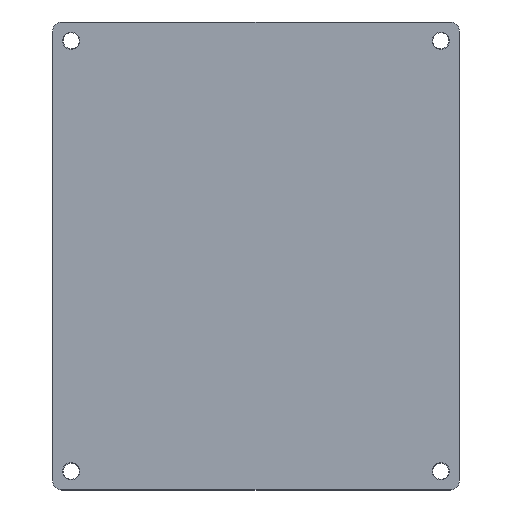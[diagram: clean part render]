
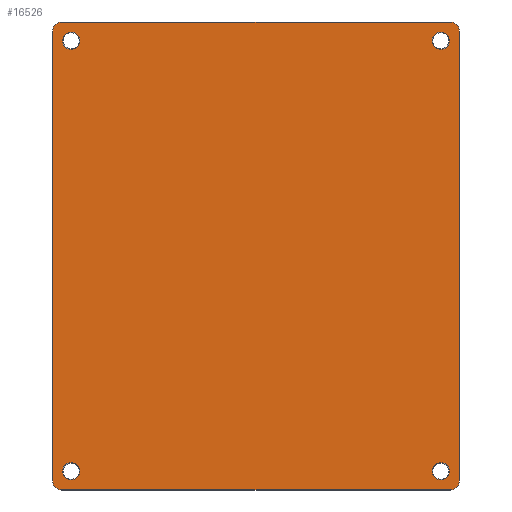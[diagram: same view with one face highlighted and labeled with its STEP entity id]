
A CAD part, top view. The second image highlights one B-rep face of the part: STEP entity #16526.
In plain terms, the highlighted planar face has unit normal (0, 0, 1).
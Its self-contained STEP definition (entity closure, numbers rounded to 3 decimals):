
#11145=CARTESIAN_POINT('',(82.5,89.75,11.198));
#11146=DIRECTION('',(0.,0.,1.));
#11147=DIRECTION('',(1.,0.,0.));
#11148=AXIS2_PLACEMENT_3D('',#11145,#11146,#11147);
#11153=DIRECTION('',(0.,1.,0.));
#11154=VECTOR('',#11153,96.);
#11155=CARTESIAN_POINT('',(84.5,-6.25,11.198));
#11156=LINE('',#11155,#11154);
#11160=CARTESIAN_POINT('',(82.5,-6.25,11.198));
#11161=DIRECTION('',(0.,0.,1.));
#11162=DIRECTION('',(0.,-1.,0.));
#11163=AXIS2_PLACEMENT_3D('',#11160,#11161,#11162);
#11168=DIRECTION('',(1.,0.,0.));
#11169=VECTOR('',#11168,83.);
#11170=CARTESIAN_POINT('',(-0.5,-8.25,11.198));
#11171=LINE('',#11170,#11169);
#11175=CARTESIAN_POINT('',(-0.5,-6.25,11.198));
#11176=DIRECTION('',(0.,0.,1.));
#11177=DIRECTION('',(-1.,0.,0.));
#11178=AXIS2_PLACEMENT_3D('',#11175,#11176,#11177);
#11183=DIRECTION('',(0.,-1.,0.));
#11184=VECTOR('',#11183,96.);
#11185=CARTESIAN_POINT('',(-2.5,89.75,11.198));
#11186=LINE('',#11185,#11184);
#11190=CARTESIAN_POINT('',(-0.5,89.75,11.198));
#11191=DIRECTION('',(0.,0.,1.));
#11192=DIRECTION('',(0.,1.,0.));
#11193=AXIS2_PLACEMENT_3D('',#11190,#11191,#11192);
#11198=DIRECTION('',(-1.,0.,0.));
#11199=VECTOR('',#11198,83.);
#11200=CARTESIAN_POINT('',(82.5,91.75,11.198));
#11201=LINE('',#11200,#11199);
#11205=CARTESIAN_POINT('',(1.5,87.75,11.198));
#11206=DIRECTION('',(0.,0.,1.));
#11207=DIRECTION('',(1.,0.,0.));
#11208=AXIS2_PLACEMENT_3D('',#11205,#11206,#11207);
#11213=CARTESIAN_POINT('',(1.5,87.75,11.198));
#11214=DIRECTION('',(0.,0.,1.));
#11215=DIRECTION('',(-1.,0.,0.));
#11216=AXIS2_PLACEMENT_3D('',#11213,#11214,#11215);
#11221=CARTESIAN_POINT('',(80.5,87.75,11.198));
#11222=DIRECTION('',(0.,0.,1.));
#11223=DIRECTION('',(1.,0.,0.));
#11224=AXIS2_PLACEMENT_3D('',#11221,#11222,#11223);
#11229=CARTESIAN_POINT('',(80.5,87.75,11.198));
#11230=DIRECTION('',(0.,0.,1.));
#11231=DIRECTION('',(-1.,0.,0.));
#11232=AXIS2_PLACEMENT_3D('',#11229,#11230,#11231);
#11237=CARTESIAN_POINT('',(1.5,-4.25,11.198));
#11238=DIRECTION('',(0.,0.,1.));
#11239=DIRECTION('',(1.,0.,0.));
#11240=AXIS2_PLACEMENT_3D('',#11237,#11238,#11239);
#11245=CARTESIAN_POINT('',(1.5,-4.25,11.198));
#11246=DIRECTION('',(0.,0.,1.));
#11247=DIRECTION('',(-1.,0.,0.));
#11248=AXIS2_PLACEMENT_3D('',#11245,#11246,#11247);
#11253=CARTESIAN_POINT('',(80.5,-4.25,11.198));
#11254=DIRECTION('',(0.,0.,1.));
#11255=DIRECTION('',(1.,0.,0.));
#11256=AXIS2_PLACEMENT_3D('',#11253,#11254,#11255);
#11261=CARTESIAN_POINT('',(80.5,-4.25,11.198));
#11262=DIRECTION('',(0.,0.,1.));
#11263=DIRECTION('',(-1.,0.,0.));
#11264=AXIS2_PLACEMENT_3D('',#11261,#11262,#11263);
#15300=CARTESIAN_POINT('',(84.5,89.75,11.198));
#15301=CARTESIAN_POINT('',(82.5,91.75,11.198));
#15302=VERTEX_POINT('',#15300);
#15303=VERTEX_POINT('',#15301);
#15304=CARTESIAN_POINT('',(-0.5,91.75,11.198));
#15305=VERTEX_POINT('',#15304);
#15306=CARTESIAN_POINT('',(-2.5,89.75,11.198));
#15307=VERTEX_POINT('',#15306);
#15308=CARTESIAN_POINT('',(-2.5,-6.25,11.198));
#15309=VERTEX_POINT('',#15308);
#15310=CARTESIAN_POINT('',(-0.5,-8.25,11.198));
#15311=VERTEX_POINT('',#15310);
#15312=CARTESIAN_POINT('',(82.5,-8.25,11.198));
#15313=VERTEX_POINT('',#15312);
#15314=CARTESIAN_POINT('',(84.5,-6.25,11.198));
#15315=VERTEX_POINT('',#15314);
#15316=CARTESIAN_POINT('',(3.35,87.75,11.198));
#15317=CARTESIAN_POINT('',(-0.35,87.75,11.198));
#15318=VERTEX_POINT('',#15316);
#15319=VERTEX_POINT('',#15317);
#15320=CARTESIAN_POINT('',(82.35,87.75,11.198));
#15321=CARTESIAN_POINT('',(78.65,87.75,11.198));
#15322=VERTEX_POINT('',#15320);
#15323=VERTEX_POINT('',#15321);
#15324=CARTESIAN_POINT('',(3.35,-4.25,11.198));
#15325=CARTESIAN_POINT('',(-0.35,-4.25,11.198));
#15326=VERTEX_POINT('',#15324);
#15327=VERTEX_POINT('',#15325);
#15328=CARTESIAN_POINT('',(82.35,-4.25,11.198));
#15329=CARTESIAN_POINT('',(78.65,-4.25,11.198));
#15330=VERTEX_POINT('',#15328);
#15331=VERTEX_POINT('',#15329);
#16487=CARTESIAN_POINT('',(0.,0.,11.198));
#16488=DIRECTION('',(0.,0.,1.));
#16489=DIRECTION('',(1.,0.,0.));
#16490=AXIS2_PLACEMENT_3D('',#16487,#16488,#16489);
#16491=PLANE('',#16490);
#16492=ORIENTED_EDGE('',*,*,#16149,.F.);
#16493=ORIENTED_EDGE('',*,*,#16164,.F.);
#16494=ORIENTED_EDGE('',*,*,#16178,.F.);
#16495=ORIENTED_EDGE('',*,*,#16192,.F.);
#16496=ORIENTED_EDGE('',*,*,#16440,.F.);
#16497=ORIENTED_EDGE('',*,*,#16454,.F.);
#16498=ORIENTED_EDGE('',*,*,#16468,.F.);
#16499=ORIENTED_EDGE('',*,*,#16481,.F.);
#16500=EDGE_LOOP('',(#16492,#16493,#16494,#16495,#16496,#16497,#16498,#16499));
#16501=FACE_OUTER_BOUND('',#16500,.F.);
#16503=ORIENTED_EDGE('',*,*,#16502,.T.);
#16505=ORIENTED_EDGE('',*,*,#16504,.T.);
#16506=EDGE_LOOP('',(#16503,#16505));
#16507=FACE_BOUND('',#16506,.F.);
#16509=ORIENTED_EDGE('',*,*,#16508,.T.);
#16511=ORIENTED_EDGE('',*,*,#16510,.T.);
#16512=EDGE_LOOP('',(#16509,#16511));
#16513=FACE_BOUND('',#16512,.F.);
#16515=ORIENTED_EDGE('',*,*,#16514,.T.);
#16517=ORIENTED_EDGE('',*,*,#16516,.T.);
#16518=EDGE_LOOP('',(#16515,#16517));
#16519=FACE_BOUND('',#16518,.F.);
#16521=ORIENTED_EDGE('',*,*,#16520,.T.);
#16523=ORIENTED_EDGE('',*,*,#16522,.T.);
#16524=EDGE_LOOP('',(#16521,#16523));
#16525=FACE_BOUND('',#16524,.F.);
#16526=ADVANCED_FACE('',(#16501,#16507,#16513,#16519,#16525),#16491,.T.);
#11149=CIRCLE('',#11148,2.);
#11164=CIRCLE('',#11163,2.);
#11179=CIRCLE('',#11178,2.);
#11194=CIRCLE('',#11193,2.);
#11209=CIRCLE('',#11208,1.85);
#11217=CIRCLE('',#11216,1.85);
#11225=CIRCLE('',#11224,1.85);
#11233=CIRCLE('',#11232,1.85);
#11241=CIRCLE('',#11240,1.85);
#11249=CIRCLE('',#11248,1.85);
#11257=CIRCLE('',#11256,1.85);
#11265=CIRCLE('',#11264,1.85);
#16149=EDGE_CURVE('',#15302,#15303,#11149,.T.);
#16164=EDGE_CURVE('',#15315,#15302,#11156,.T.);
#16178=EDGE_CURVE('',#15313,#15315,#11164,.T.);
#16192=EDGE_CURVE('',#15311,#15313,#11171,.T.);
#16440=EDGE_CURVE('',#15309,#15311,#11179,.T.);
#16454=EDGE_CURVE('',#15307,#15309,#11186,.T.);
#16468=EDGE_CURVE('',#15305,#15307,#11194,.T.);
#16481=EDGE_CURVE('',#15303,#15305,#11201,.T.);
#16502=EDGE_CURVE('',#15318,#15319,#11209,.T.);
#16504=EDGE_CURVE('',#15319,#15318,#11217,.T.);
#16508=EDGE_CURVE('',#15322,#15323,#11225,.T.);
#16510=EDGE_CURVE('',#15323,#15322,#11233,.T.);
#16514=EDGE_CURVE('',#15326,#15327,#11241,.T.);
#16516=EDGE_CURVE('',#15327,#15326,#11249,.T.);
#16520=EDGE_CURVE('',#15330,#15331,#11257,.T.);
#16522=EDGE_CURVE('',#15331,#15330,#11265,.T.);
